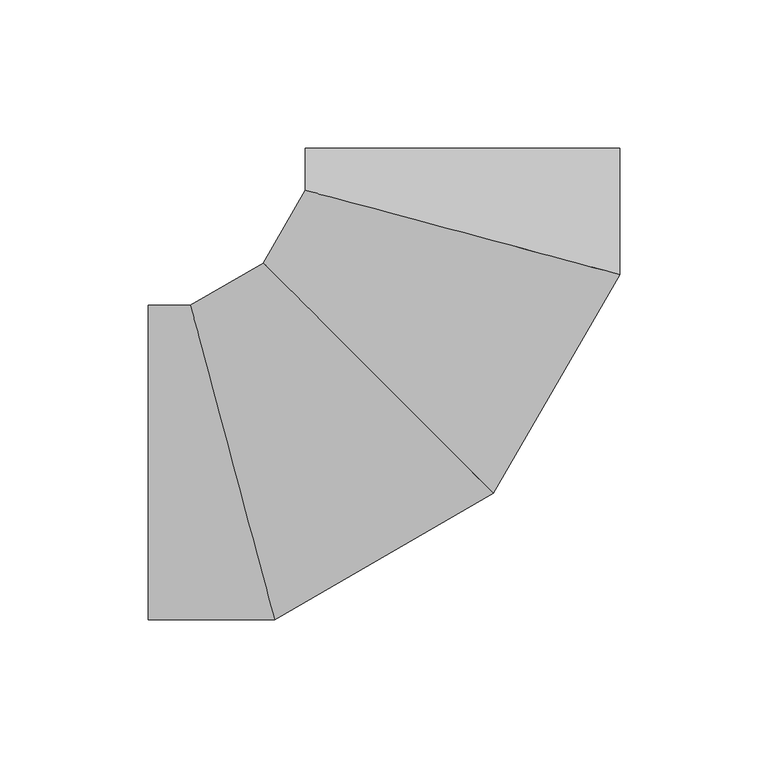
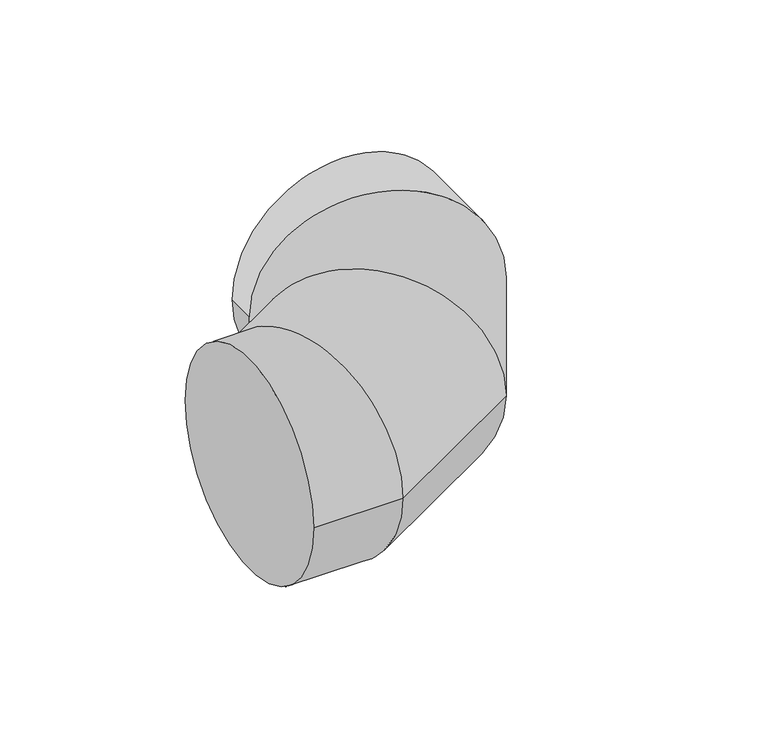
"""IFC4 building model written with IfcOpenShell, lengths in millimetres: duct fitting geometry, 17_Отвод_Заключение : 10_Отвод_3D объект."""

from ifc_helpers import new_model, si_unit, frame, origin, place, context, project, spatial, circle_curve, ellipse_curve, source, transform, mapped, element, save
from ifc_brep_helpers import plane_surface, cylinder_surface, advanced_brep


def duct_fitting_69a142ec(model_context):
    return source(origin(), model_context, "Body", "AdvancedBrep", [
        advanced_brep(
        [(-106.0, -53.0, 0.0), (-106.0, 53.0, 0.0), (-63.3960784, -53.0, 0.0), (-91.7986928, 53.0, 0.0), (10.3960784, -10.3960784, 0.0), (-67.2013072, 67.2013072, 0.0), (53.0, 63.3960784, 0.0), (-53.0, 91.7986928, 0.0), (53.0, 106.0, 0.0), (-53.0, 106.0, 0.0)],
        [
            (0, 1, circle_curve(frame((-106.0, 0.0, 0.0), z_axis=(-1.0, 0.0, 0.0), x_axis=(0.0, 1.0, 0.0)), 53.0)),
            (1, 0, circle_curve(frame((-106.0, 0.0, 0.0), z_axis=(-1.0, 0.0, 0.0), x_axis=(0.0, 1.0, 0.0)), 53.0)),
            (0, 2),
            (2, 3, ellipse_curve(frame((-77.5973856, 0.0, 0.0), z_axis=(-0.9659258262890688, -0.258819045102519, 0.0), x_axis=(-0.25881904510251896, 0.9659258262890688, 0.0)), 54.8696376, 53.0)),
            (3, 1),
            (3, 2, ellipse_curve(frame((-77.5973856, 0.0, 0.0), z_axis=(-0.9659258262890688, -0.258819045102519, 0.0), x_axis=(-0.25881904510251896, 0.9659258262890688, 0.0)), 54.8696376, 53.0)),
            (2, 4),
            (4, 5, ellipse_curve(frame((-28.4026144, 28.4026144, 0.0), z_axis=(-0.7071067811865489, -0.7071067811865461, 0.0), x_axis=(-0.7071067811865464, 0.7071067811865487, 0.0)), 54.8696376, 53.0)),
            (5, 3),
            (5, 4, ellipse_curve(frame((-28.4026144, 28.4026144, 0.0), z_axis=(-0.7071067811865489, -0.7071067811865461, 0.0), x_axis=(-0.7071067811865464, 0.7071067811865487, 0.0)), 54.8696376, 53.0)),
            (4, 6),
            (6, 7, ellipse_curve(frame((0.0, 77.5973856, 0.0), z_axis=(-0.25881904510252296, -0.9659258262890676, 0.0), x_axis=(-0.9659258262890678, 0.2588190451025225, 0.0)), 54.8696376, 53.0)),
            (7, 5),
            (7, 6, ellipse_curve(frame((0.0, 77.5973856, 0.0), z_axis=(-0.25881904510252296, -0.9659258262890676, 0.0), x_axis=(-0.9659258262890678, 0.2588190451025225, 0.0)), 54.8696376, 53.0)),
            (8, 9, circle_curve(frame((0.0, 106.0, 0.0), z_axis=(0.0, 1.0, 0.0), x_axis=(-1.0, 0.0, 0.0)), 53.0)),
            (9, 8, circle_curve(frame((0.0, 106.0, 0.0), z_axis=(0.0, 1.0, 0.0), x_axis=(-1.0, 0.0, 0.0)), 53.0)),
            (6, 8),
            (9, 7),
        ],
        [
            plane_surface(frame((-106.0, 0.0, 0.0), z_axis=(-1.0, 0.0, 0.0), x_axis=(0.0, 0.0, 1.0))),
            cylinder_surface(frame((-106.0, 0.0, 0.0), z_axis=(-1.0, 0.0, 0.0), x_axis=(0.0, 1.0, 0.0)), 53.0),
            cylinder_surface(frame((-77.5973856, 0.0, 0.0), z_axis=(-0.8660254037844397, -0.4999999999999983, 0.0), x_axis=(-0.4999999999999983, 0.8660254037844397, 0.0)), 53.0),
            cylinder_surface(frame((-28.4026144, 28.4026144, 0.0), z_axis=(-0.5000000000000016, -0.8660254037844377, 0.0), x_axis=(-0.8660254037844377, 0.5000000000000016, 0.0)), 53.0),
            plane_surface(frame((0.0, 106.0, 0.0), z_axis=(0.0, 1.0, 0.0), x_axis=(0.0, 0.0, 1.0))),
            cylinder_surface(frame((0.0, 77.5973856, 0.0), z_axis=(0.0, -1.0, 0.0), x_axis=(-1.0, 0.0, 0.0)), 53.0),
        ],
        [
            (0, [[1, 2]]),
            (1, [[-1, 3, 4, 5]]),
            (1, [[-2, -5, 6, -3]]),
            (2, [[-4, 7, 8, 9]]),
            (2, [[-6, -9, 10, -7]]),
            (3, [[-8, 11, 12, 13]]),
            (3, [[-10, -13, 14, -11]]),
            (4, [[15, 16]]),
            (5, [[-12, 17, -16, 18]]),
            (5, [[-14, -18, -15, -17]]),
        ],
    ),
    ])


if __name__ == "__main__":
    model = new_model("IFC4")
    model_context = context("Model", 3, world=origin())
    ifc_project = project(units=[si_unit("LENGTHUNIT", "METRE", prefix="MILLI")], contexts=[model_context])
    site = spatial("IfcSite", under=ifc_project)
    building = spatial("IfcBuilding", under=site)
    placement = place(None, origin())
    duct_fitting_shape = duct_fitting_69a142ec(model_context)
    element("IfcDuctFitting", 1, ObjectType="17_Отвод_Заключение : 10_Отвод_3D объект", at=placement, inside=building, context=model_context, shape_type="MappedRepresentation", body=[
        mapped(duct_fitting_shape, transform((0.0, 0.0, 0.0), x_axis=(1.0, 0.0, 0.0), y_axis=(0.0, 1.0, 0.0), z_axis=(0.0, 0.0, 1.0))),
    ])
    save(model, "model.ifc")
